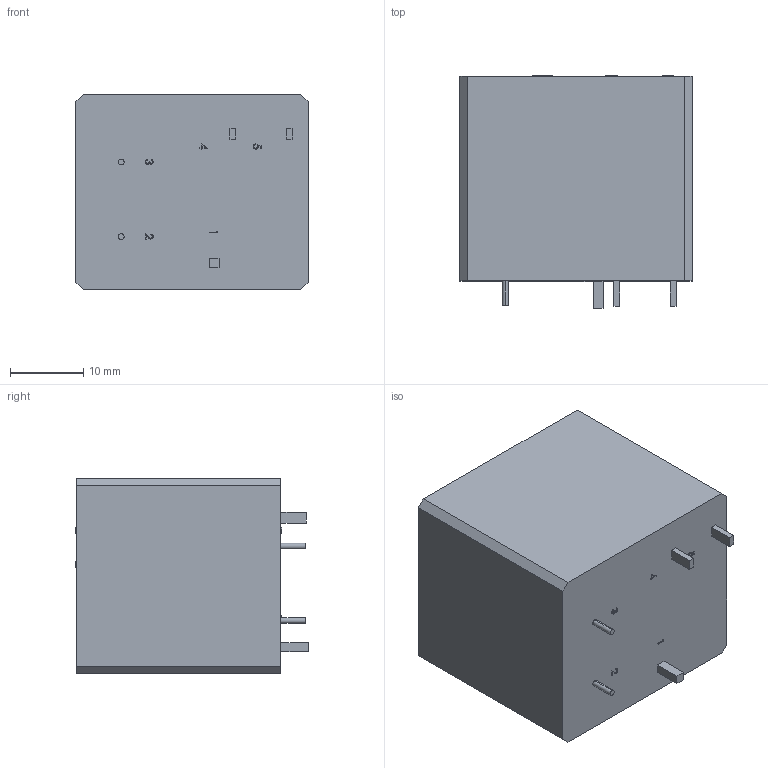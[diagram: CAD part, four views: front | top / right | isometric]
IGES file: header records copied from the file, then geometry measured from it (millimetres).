
Global section: file name: Filename.iges; native system: Open CASCADE 7.3; preprocessor: Open CASCADE IGES processor 7.3; date: 20200625.092254; units: millimetre
Bounding box: 31.8 x 31.85 x 26.8 mm (x, y, z)
Surface area: 6337.1 mm2 (no closed solid volume)
Topology: 0 solids, 0 shells, 226 faces, 1182 edges, 1182 vertices
Faces by surface type: plane 152, bspline 62, revolution 12
